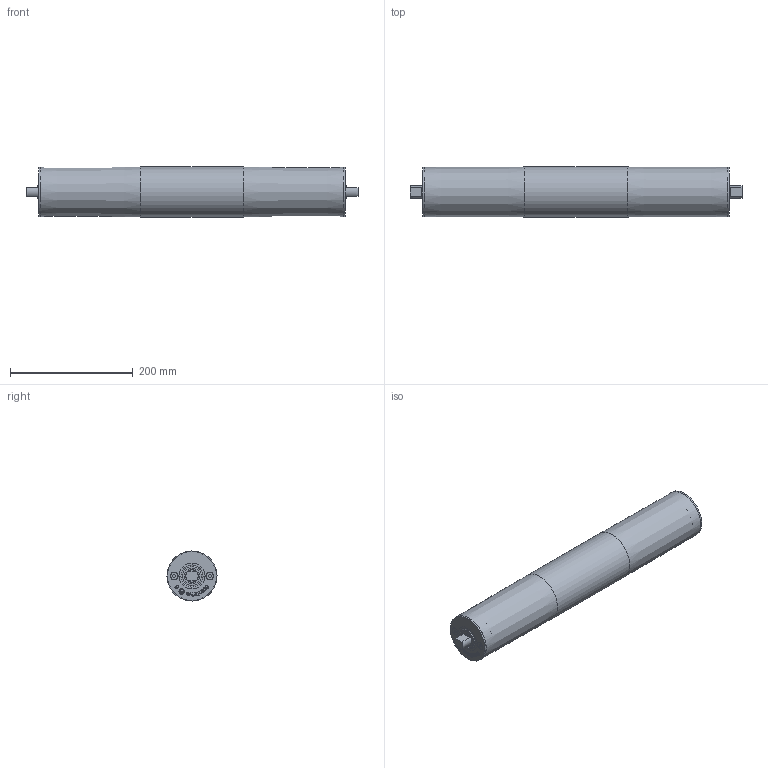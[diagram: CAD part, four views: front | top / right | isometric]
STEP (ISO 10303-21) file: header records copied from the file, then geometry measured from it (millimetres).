
FILE_DESCRIPTION(/* description */ (''),/* implementation_level */ '2;1');
FILE_NAME(/* name */ 'C:\WF_Ellegaard\Designs\00 standart komponenter\Tromlemotor\Scandrive S\Ø80\Scandrive S Ø80 RL500.stp',/* time_stamp */ '2017-04-19T18:35:01+02:00',/* author */ ('guh'),/* organization */ (''),/* preprocessor_version */ 'ST-DEVELOPER v15.6',/* originating_system */ 'Autodesk Inventor 2015',/* authorisation */ '');
FILE_SCHEMA (('AUTOMOTIVE_DESIGN { 1 0 10303 214 3 1 1 }'));
Length unit declared in the file: millimetre
Products named in the file (1): Scandrive S Ø80 RL500
Bounding box: 541 x 81.5 x 81.5 mm (x, y, z)
Volume: 391021.7 mm3; surface area: 283209.9 mm2
Topology: 1 solids, 2 shells, 484 faces, 1252 edges, 834 vertices
Faces by surface type: plane 260, bspline 196, cylinder 22, cone 4, torus 2
Full cylindrical faces by diameter (mm): 12 x2, 13 x2, 20 x2, 26 x2, 26.02 x2, 41.98 x2, 42 x2, 77 x2, 78 x1, 80 x2, 80.007 x2, 81.5 x1
Entity records: 15597 total; most frequent: CARTESIAN_POINT 5087, ORIENTED_EDGE 2444, DIRECTION 1468, EDGE_CURVE 1222, VERTEX_POINT 832, LINE 770, VECTOR 770, EDGE_LOOP 574
